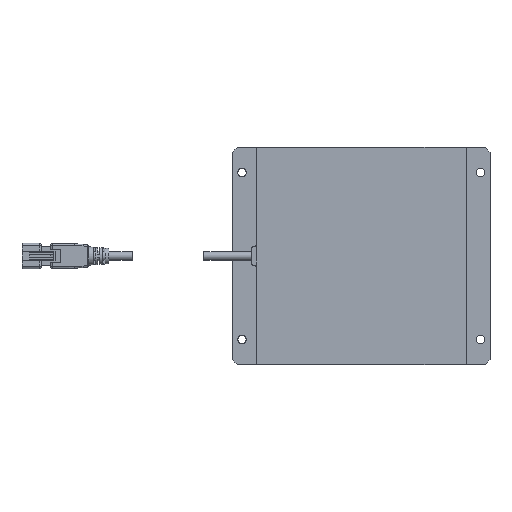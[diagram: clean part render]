
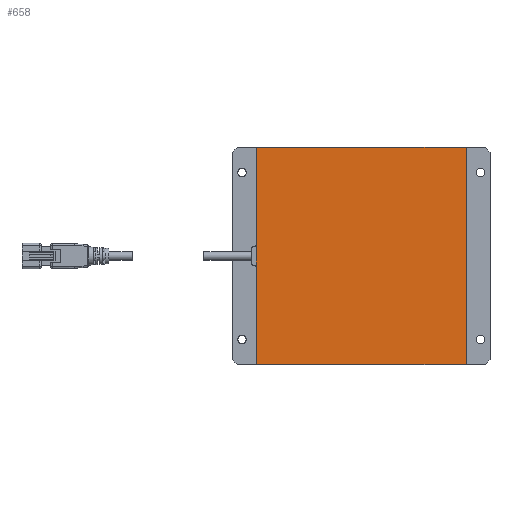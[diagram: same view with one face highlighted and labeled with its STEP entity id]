
A CAD part, top view. The second image highlights one B-rep face of the part: STEP entity #658.
In plain terms, the highlighted planar face has unit normal (0, 0, 1).
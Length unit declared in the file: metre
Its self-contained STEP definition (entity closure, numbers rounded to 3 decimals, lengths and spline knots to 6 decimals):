
#658=ADVANCED_FACE('NONE',(#1847),#1848,.F.);
#1847=FACE_OUTER_BOUND('',#3463,.T.);
#1848=PLANE('',#3464);
#3463=EDGE_LOOP('',(#6283,#6284,#6285,#6286));
#3464=AXIS2_PLACEMENT_3D('',#6287,#6288,#6289);
#6283=ORIENTED_EDGE('',*,*,#8401,.T.);
#6284=ORIENTED_EDGE('',*,*,#8402,.T.);
#6285=ORIENTED_EDGE('',*,*,#8403,.T.);
#6286=ORIENTED_EDGE('',*,*,#8404,.T.);
#6287=CARTESIAN_POINT('',(0.0,0.,0.002));
#6288=DIRECTION('',(0.0,0.,-1.0));
#6289=DIRECTION('',(1.0,0.0,0.0));
#8401=EDGE_CURVE('NONE',#8659,#8660,#8661,.T.);
#8402=EDGE_CURVE('NONE',#8660,#8662,#8663,.T.);
#8403=EDGE_CURVE('NONE',#8662,#8664,#8665,.T.);
#8404=EDGE_CURVE('NONE',#8664,#8659,#8666,.T.);
#8659=VERTEX_POINT('NONE',#8959);
#8660=VERTEX_POINT('NONE',#8960);
#8661=LINE('',#8961,#8962);
#8662=VERTEX_POINT('NONE',#8963);
#8663=LINE('',#8964,#8965);
#8664=VERTEX_POINT('NONE',#8966);
#8665=LINE('',#8967,#8968);
#8666=LINE('',#8969,#8970);
#8959=CARTESIAN_POINT('',(-0.044,0.0455,0.002));
#8960=CARTESIAN_POINT('',(-0.044,-0.0455,0.002));
#8961=CARTESIAN_POINT('',(-0.044,0.0455,0.002));
#8962=VECTOR('',#9287,1.0);
#8963=CARTESIAN_POINT('',(0.044,-0.0455,0.002));
#8964=CARTESIAN_POINT('',(0.044,-0.0455,0.002));
#8965=VECTOR('',#9288,1.0);
#8966=CARTESIAN_POINT('',(0.044,0.0455,0.002));
#8967=CARTESIAN_POINT('',(0.044,0.0455,0.002));
#8968=VECTOR('',#9289,1.0);
#8969=CARTESIAN_POINT('',(0.044,0.0455,0.002));
#8970=VECTOR('',#9290,1.0);
#9287=DIRECTION('',(0.0,-1.0,0.));
#9288=DIRECTION('',(1.0,0.0,0.0));
#9289=DIRECTION('',(0.0,1.0,0.));
#9290=DIRECTION('',(-1.0,-0.0,0.0));
